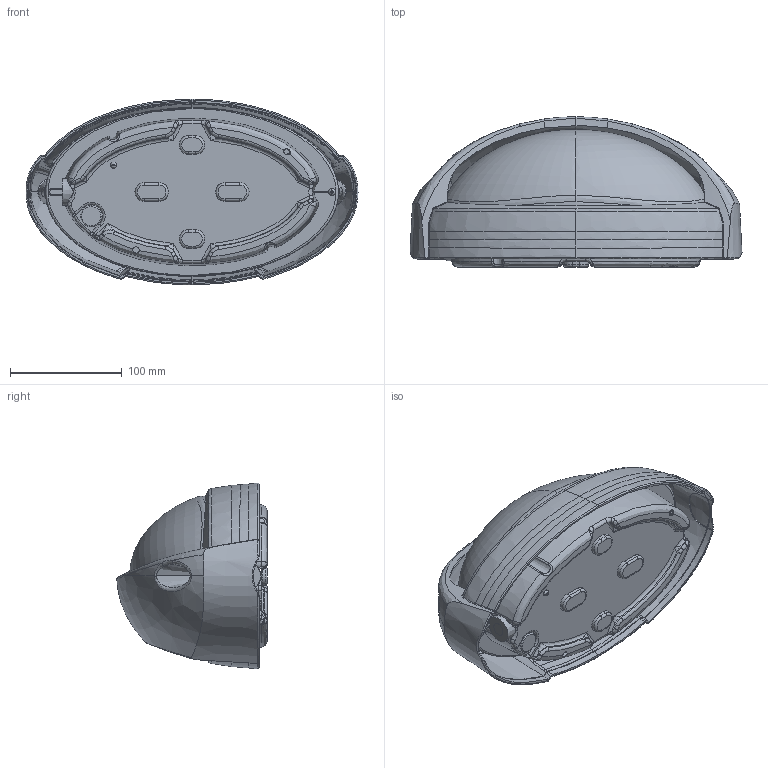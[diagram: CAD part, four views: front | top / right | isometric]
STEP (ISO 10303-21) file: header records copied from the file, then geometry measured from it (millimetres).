
FILE_DESCRIPTION((''),'2;1');
FILE_NAME('AIRY_TOP_OVALE_300','2025-07-29T09:08:28',('Minervini'),(''),'CREO PARAMETRIC BY PTC INC, 2025010','CREO PARAMETRIC BY PTC INC, 2025010','');
FILE_SCHEMA(('CONFIG_CONTROL_DESIGN'));
Products named in the file (1): AIRY_TOP_OVALE_300
Bounding box: 296.51 x 134.2 x 165.81 mm (x, y, z)
Surface area: 301838.6 mm2 (no closed solid volume)
Topology: 0 solids, 22 shells, 385 faces, 1379 edges, 973 vertices
Faces by surface type: bspline 268, plane 47, cylinder 29, cone 19, torus 13, sphere 5, extrusion 4
Entity records: 53465 total; most frequent: CARTESIAN_POINT 44809, ORIENTED_EDGE 2026, EDGE_CURVE 1375, VERTEX_POINT 973, B_SPLINE_CURVE_WITH_KNOTS 954, DIRECTION 925, EDGE_LOOP 385, FACE_OUTER_BOUND 385
